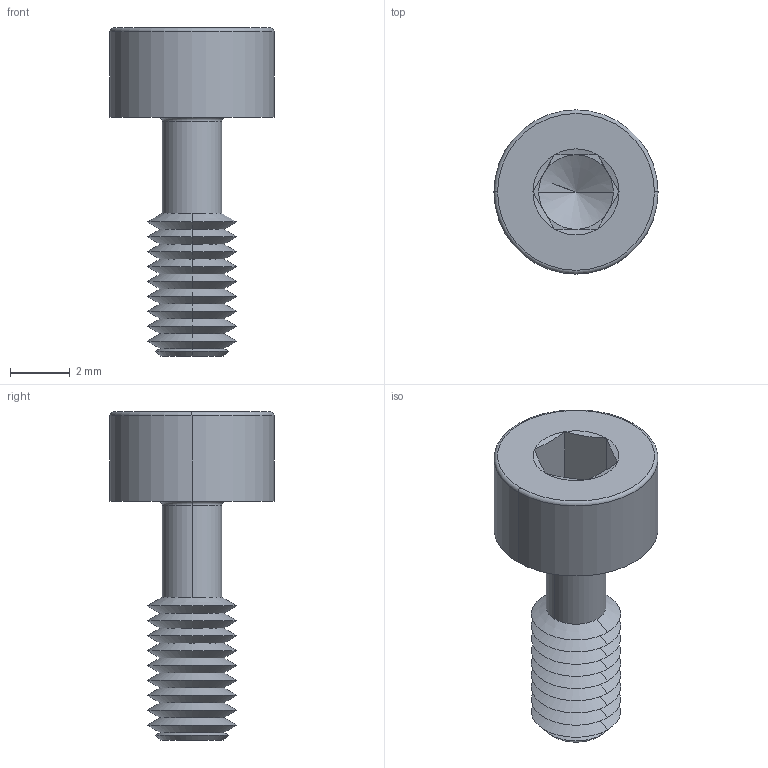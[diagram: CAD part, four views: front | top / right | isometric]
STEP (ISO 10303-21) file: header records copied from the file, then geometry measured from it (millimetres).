
FILE_DESCRIPTION (( 'STEP AP203' ), '1' );
FILE_NAME ('P0154.030-008-BL.step', '2024-06-17T11:22:02', ( '' ), ( '' ), 'SwSTEP 2.0', 'SolidWorks 2019', '' );
FILE_SCHEMA (( 'CONFIG_CONTROL_DESIGN' ));
Length unit declared in the file: millimetre
Products named in the file (1): P0154.030-008-BL
Bounding box: 5.5 x 5.5 x 11 mm (x, y, z)
Volume: 91.3 mm3; surface area: 217 mm2
Topology: 1 solids, 1 shells, 71 faces, 144 edges, 75 vertices
Faces by surface type: cone 48, plane 15, torus 4, cylinder 4
Entity records: 1887 total; most frequent: DIRECTION 352, CARTESIAN_POINT 315, ORIENTED_EDGE 284, AXIS2_PLACEMENT_3D 144, EDGE_CURVE 142, VERTEX_POINT 75, EDGE_LOOP 73, CIRCLE 72
